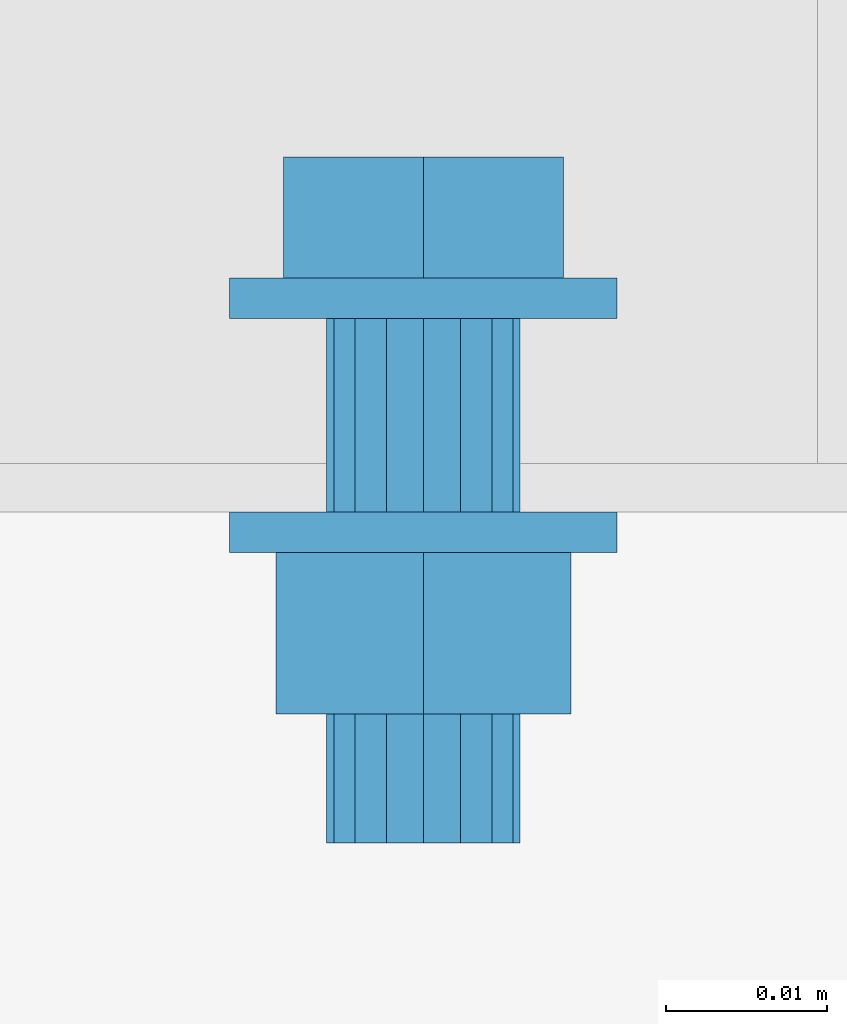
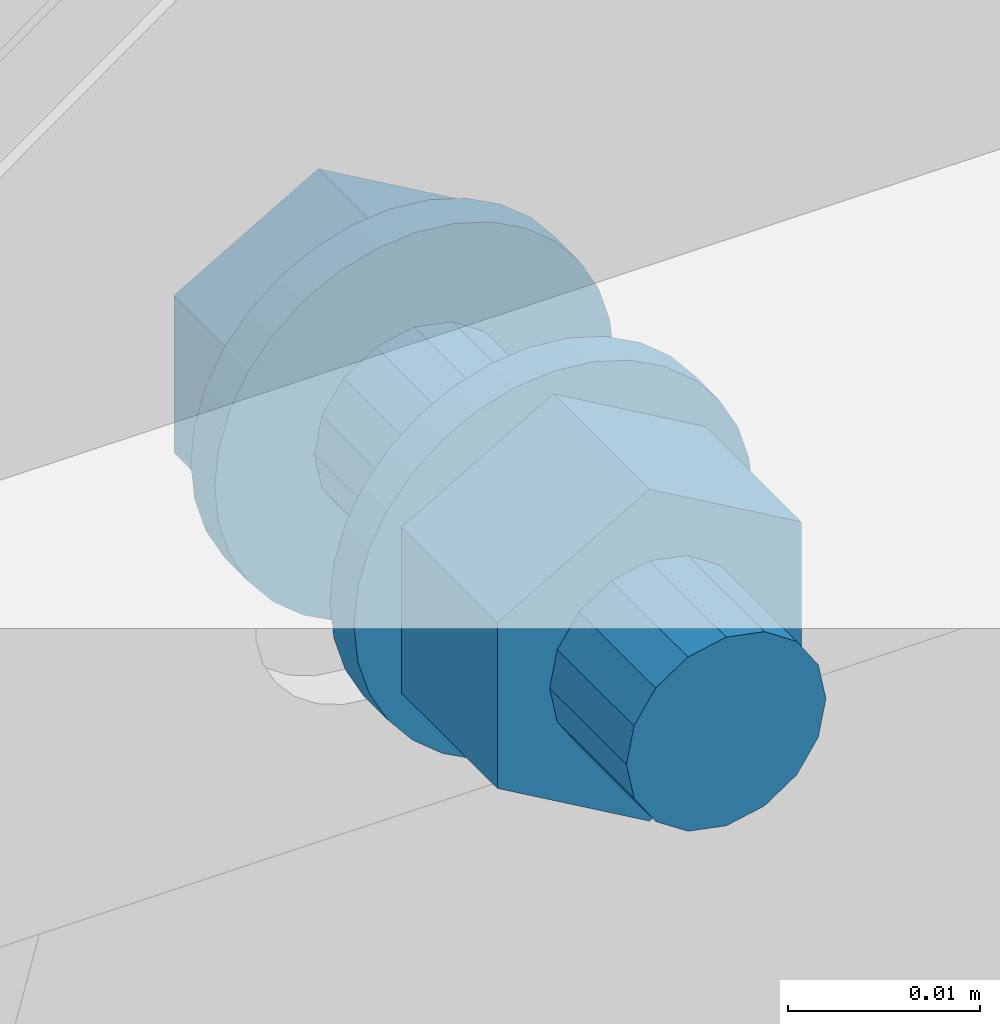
# One storey, part 260 of 410: 1 mechanical fastener.
"""IFC2X3 building model written with IfcOpenShell, lengths in millimetres."""

import ifcopenshell
import ifcopenshell.guid

model = None  # the IFC model being written
_history = None  # IfcOwnerHistory: only IFC2X3 demands one
_inside = {}  # id of a spatial element -> (the spatial element, [elements in it])
_under = {}  # id of a project, library or spatial element -> (it, [spatial elements below it])
_declared = {}  # id of a project -> (the project, [libraries it declares])
_typed = {}  # id of a type object -> (the type object, [elements of that type])
_made_of = {}  # id of a material, layer set ... -> (it, [elements and type objects made of it])


def new_model(schema):
    """Start an empty IFC model of exactly this schema.

    Asked for "IFC4X3", IfcOpenShell would pick the latest addendum, in which some entities
    have other attributes; the version numbers below select the first issue.
    IFC2X3 requires an IfcOwnerHistory on every rooted entity: one is made here for all.
    """
    global model, _history
    if schema == "IFC4X3":
        model = ifcopenshell.file(schema_version=(4, 3, 0, 0))
    else:
        model = ifcopenshell.file(schema=schema)
    _inside.clear()
    _under.clear()
    _declared.clear()
    _typed.clear()
    _made_of.clear()
    _history = None
    if model.schema == "IFC2X3":
        org = make("IfcOrganization", Name="unknown")
        user = make(
            "IfcPersonAndOrganization",
            ThePerson=make("IfcPerson", FamilyName="unknown"),
            TheOrganization=org,
        )
        app = make(
            "IfcApplication",
            ApplicationDeveloper=org,
            Version="unknown",
            ApplicationFullName="unknown",
            ApplicationIdentifier="unknown",
        )
        _history = make(
            "IfcOwnerHistory",
            OwningUser=user,
            OwningApplication=app,
            ChangeAction="ADDED",
            CreationDate=0,
        )
    return model


def make(cls, **values):
    """One entity of the class cls with the attributes given. An attribute that is None is left unset."""
    return model.create_entity(
        cls, **{name: value for name, value in values.items() if value is not None}
    )


def entity(cls, *values):
    """Any entity or typed value of the class cls, its attributes in the order of the schema. None: left unset."""
    e = model.create_entity(cls)
    for i, value in enumerate(values):
        if value is not None:
            e[i] = value
    return e


def rooted(cls, **values):
    """An entity with a GlobalId (a new one), such as an element, a storey or a relation."""
    return make(cls, GlobalId=ifcopenshell.guid.new(), OwnerHistory=_history, **values)


def si_unit(unit_type, name, prefix=None):
    """IfcSIUnit, for example si_unit("LENGTHUNIT", "METRE", prefix="MILLI")."""
    return make("IfcSIUnit", UnitType=unit_type, Prefix=prefix, Name=name)


def converted_unit(unit_type, name, factor, base, dimensions=None, offset=None):
    """IfcConversionBasedUnit, such as the inch: factor (a typed value) times the base unit."""
    return make(
        "IfcConversionBasedUnit"
        if offset is None
        else "IfcConversionBasedUnitWithOffset",
        ConversionOffset=offset,
        Dimensions=None
        if dimensions is None
        else entity("IfcDimensionalExponents", *dimensions),
        UnitType=unit_type,
        Name=name,
        ConversionFactor=make(
            "IfcMeasureWithUnit", ValueComponent=factor, UnitComponent=base
        ),
    )


def assignment(units):
    """IfcUnitAssignment: the units of a project."""
    return None if units is None else make("IfcUnitAssignment", Units=units)


def point(xyz):
    """IfcCartesianPoint."""
    return None if xyz is None else make("IfcCartesianPoint", Coordinates=xyz)


def direction(xyz):
    """IfcDirection."""
    return None if xyz is None else make("IfcDirection", DirectionRatios=xyz)


def frame(location, z_axis=None, x_axis=None):
    """IfcAxis2Placement3D, a coordinate frame: its origin and axes. An axis left out is left unset."""
    return make(
        "IfcAxis2Placement3D",
        Location=point(location),
        Axis=direction(z_axis),
        RefDirection=direction(x_axis),
    )


def origin_with_axes():
    """The frame at (0, 0, 0) with the z axis (0, 0, 1) and the x axis (1, 0, 0) written out."""
    return frame((0.0, 0.0, 0.0), z_axis=(0.0, 0.0, 1.0), x_axis=(1.0, 0.0, 0.0))


def place(relative_to, where):
    """IfcLocalPlacement: puts the frame where relative to a parent placement (None: the world)."""
    return make(
        "IfcLocalPlacement", PlacementRelTo=relative_to, RelativePlacement=where
    )


def context(
    kind, dimensions, precision=None, world=None, true_north=None, identifier=None
):
    """IfcGeometricRepresentationContext, for example the 3D "Model" context."""
    return make(
        "IfcGeometricRepresentationContext",
        ContextIdentifier=identifier,
        ContextType=kind,
        CoordinateSpaceDimension=dimensions,
        Precision=precision,
        WorldCoordinateSystem=world,
        TrueNorth=true_north,
    )


def project(units=None, contexts=None):
    """IfcProject with its units and contexts."""
    return rooted(
        "IfcProject",
        Name="project",
        RepresentationContexts=contexts,
        UnitsInContext=assignment(units),
    )


def spatial(cls, under=None, at=None, **own):
    """A site, building, storey or space (cls), placed at a placement, below another one or the project."""
    s = rooted(cls, ObjectPlacement=at, **own)
    if under is not None:
        _under.setdefault(under.id(), (under, []))[1].append(s)
    return s


def faces_of(points, faces, orient=None, outer=None):
    """IfcFace entities. A face is a list of loops; a loop is a list of indices into points, from 0.

    orient and outer hold one flag for each loop. By default every Orientation is true, the
    first loop of a face is its IfcFaceOuterBound and the others are IfcFaceBound.
    """
    made = []
    for i, loops in enumerate(faces):
        bounds = []
        for j, loop in enumerate(loops):
            is_outer = j == 0 if outer is None else outer[i][j]
            bounds.append(
                make(
                    "IfcFaceOuterBound" if is_outer else "IfcFaceBound",
                    Bound=make("IfcPolyLoop", Polygon=[points[k] for k in loop]),
                    Orientation=True if orient is None else orient[i][j],
                )
            )
        made.append(make("IfcFace", Bounds=bounds))
    return made


def faceted_brep(points, faces, orient=None, outer=None, voids=None):
    """IfcFacetedBrep: a solid bounded by flat faces; with voids (closed shells), ...WithVoids."""
    shared = [point(p) for p in points]
    hull = make("IfcClosedShell", CfsFaces=faces_of(shared, faces, orient, outer))
    if voids is None:
        return make("IfcFacetedBrep", Outer=hull)
    return make(
        "IfcFacetedBrepWithVoids",
        Outer=hull,
        Voids=[
            make(cls, CfsFaces=faces_of(shared, fs, o, b)) for cls, fs, o, b in voids
        ],
    )


def shape(context_of_items, identifier, shape_type, items):
    """IfcShapeRepresentation: the items that make up one representation, for example the "Body"."""
    return make(
        "IfcShapeRepresentation",
        ContextOfItems=context_of_items,
        RepresentationIdentifier=identifier,
        RepresentationType=shape_type,
        Items=items,
    )


def made_of(thing, what):
    """Note that an element or type object is made of a material, layer set ...; save() writes the relation."""
    if what is not None:
        _made_of.setdefault(what.id(), (what, []))[1].append(thing)
    return thing


def element(
    cls,
    number,
    at=None,
    inside=None,
    cuts=None,
    type_object=None,
    material=None,
    context=None,
    identifier="Body",
    shape_type=None,
    held_by="IfcProductDefinitionShape",
    body=None,
    shapes=None,
    **own,
):
    """One element of the class cls, such as IfcWall. Its Tag is "e" and its number.

    at: its placement. inside: the storey or other place that contains it. cuts: it is an
    opening in that element (IfcRelVoidsElement). A single representation is given by context,
    identifier, shape_type and body (its items); several are given by shapes. held_by: the class
    of the entity that holds the representations. save() writes the other relations.
    """
    e = rooted(cls, Tag="e%d" % number, ObjectPlacement=at, **own)
    if body is not None:
        shapes = [shape(context, identifier, shape_type, body)]
    if shapes is not None:
        e.Representation = make(held_by, Representations=shapes)
    if inside is not None:
        _inside.setdefault(inside.id(), (inside, []))[1].append(e)
    if cuts is not None:
        rooted(
            "IfcRelVoidsElement", RelatingBuildingElement=cuts, RelatedOpeningElement=e
        )
    if type_object is not None:
        _typed.setdefault(type_object.id(), (type_object, []))[1].append(e)
    return made_of(e, material)


def aggregate(whole, parts):
    """IfcRelAggregates: a whole, such as a stair, and the parts it consists of."""
    return rooted("IfcRelAggregates", RelatingObject=whole, RelatedObjects=parts)


def save(model, path):
    """Write the relations noted so far, then the file.

    IfcRelAggregates (storeys below a building ...), IfcRelContainedInSpatialStructure (elements
    in a storey), IfcRelDefinesByType, IfcRelAssociatesMaterial and IfcRelDeclares: one each for
    every whole, place, type object, material and project.
    """
    for whole, parts in _under.values():
        aggregate(whole, parts)
    for where, things in _inside.values():
        rooted(
            "IfcRelContainedInSpatialStructure",
            RelatedElements=things,
            RelatingStructure=where,
        )
    for kind, things in _typed.values():
        rooted("IfcRelDefinesByType", RelatedObjects=things, RelatingType=kind)
    for what, things in _made_of.values():
        rooted("IfcRelAssociatesMaterial", RelatedObjects=things, RelatingMaterial=what)
    for by, libraries in _declared.values():
        rooted("IfcRelDeclares", RelatingContext=by, RelatedDefinitions=libraries)
    model.write(path)


model = new_model("IFC2X3")

# Units and contexts
model_context = context("Model", 3, precision=1e-09, world=origin_with_axes())
ifc_project = project(units=[si_unit("LENGTHUNIT", "METRE", prefix="MILLI"), si_unit("AREAUNIT", "SQUARE_METRE"), si_unit("VOLUMEUNIT", "CUBIC_METRE"), converted_unit("PLANEANGLEUNIT", "DEGREE", entity("IfcPlaneAngleMeasure", 0.01745329), si_unit("PLANEANGLEUNIT", "RADIAN"), dimensions=[0, 0, 0, 0, 0, 0, 0])], contexts=[model_context])

# Site, building, storey
site_placement = place(None, origin_with_axes())
site = spatial("IfcSite", under=ifc_project, at=site_placement, Name="mKR Teilneubau & Sanierung BA1 - Ostfildern", CompositionType="ELEMENT")
building_placement = place(site_placement, origin_with_axes())
building = spatial("IfcBuilding", under=site, at=building_placement, Name="Struktur 1", CompositionType="ELEMENT")
storey_placement = place(building_placement, origin_with_axes())
storey = spatial("IfcBuildingStorey", under=building, at=storey_placement, Name="Default Storey", CompositionType="ELEMENT", Elevation=0.0)

# Mechanical fastener
mechanical_fastener_placement = place(None, origin_with_axes())
element("IfcMechanicalFastener", 1, at=mechanical_fastener_placement, inside=storey, ObjectType="Bolt", NominalDiameter=12.0, NominalLength=35.0, context=model_context, shape_type="Brep", body=[
    faceted_brep([(-1038.0, 18451.499999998, 7270.0), (-1038.0, 18448.999999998, 7270.0), (-1038.230576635, 18448.999999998, 7267.658916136), (-1038.230576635, 18451.499999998, 7267.658916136), (-1038.91344561, 18448.999999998, 7265.407798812), (-1038.91344561, 18451.499999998, 7265.407798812), (-1040.022364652, 18448.999999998, 7263.333157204), (-1040.022364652, 18451.499999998, 7263.333157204), (-1041.514718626, 18448.999999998, 7261.514718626), (-1041.514718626, 18451.499999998, 7261.514718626), (-1043.333157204, 18448.999999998, 7260.022364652), (-1043.333157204, 18451.499999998, 7260.022364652), (-1045.407798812, 18448.999999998, 7258.91344561), (-1045.407798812, 18451.499999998, 7258.91344561), (-1047.658916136, 18448.999999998, 7258.230576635), (-1047.658916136, 18451.499999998, 7258.230576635), (-1050.0, 18448.999999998, 7258.0), (-1050.0, 18451.499999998, 7258.0), (-1052.341083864, 18448.999999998, 7258.230576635), (-1052.341083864, 18451.499999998, 7258.230576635), (-1054.592201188, 18448.999999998, 7258.91344561), (-1054.592201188, 18451.499999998, 7258.91344561), (-1056.666842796, 18448.999999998, 7260.022364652), (-1056.666842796, 18451.499999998, 7260.022364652), (-1058.485281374, 18448.999999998, 7261.514718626), (-1058.485281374, 18451.499999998, 7261.514718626), (-1059.977635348, 18448.999999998, 7263.333157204), (-1059.977635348, 18451.499999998, 7263.333157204), (-1061.08655439, 18448.999999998, 7265.407798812), (-1061.08655439, 18451.499999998, 7265.407798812), (-1061.769423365, 18448.999999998, 7267.658916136), (-1061.769423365, 18451.499999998, 7267.658916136), (-1062.0, 18448.999999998, 7270.0), (-1062.0, 18451.499999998, 7270.0), (-1061.769423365, 18448.999999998, 7272.341083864), (-1061.769423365, 18451.499999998, 7272.341083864), (-1061.08655439, 18448.999999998, 7274.592201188), (-1061.08655439, 18451.499999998, 7274.592201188), (-1059.977635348, 18448.999999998, 7276.666842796), (-1059.977635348, 18451.499999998, 7276.666842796), (-1058.485281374, 18448.999999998, 7278.485281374), (-1058.485281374, 18451.499999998, 7278.485281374), (-1056.666842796, 18448.999999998, 7279.977635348), (-1056.666842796, 18451.499999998, 7279.977635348), (-1054.592201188, 18448.999999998, 7281.08655439), (-1054.592201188, 18451.499999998, 7281.08655439), (-1052.341083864, 18448.999999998, 7281.769423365), (-1052.341083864, 18451.499999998, 7281.769423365), (-1050.0, 18448.999999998, 7282.0), (-1050.0, 18451.499999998, 7282.0), (-1047.658916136, 18448.999999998, 7281.769423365), (-1047.658916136, 18451.499999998, 7281.769423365), (-1045.407798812, 18448.999999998, 7281.08655439), (-1045.407798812, 18451.499999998, 7281.08655439), (-1043.333157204, 18448.999999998, 7279.977635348), (-1043.333157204, 18451.499999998, 7279.977635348), (-1041.514718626, 18448.999999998, 7278.485281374), (-1041.514718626, 18451.499999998, 7278.485281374), (-1040.022364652, 18448.999999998, 7276.666842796), (-1040.022364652, 18451.499999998, 7276.666842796), (-1038.91344561, 18448.999999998, 7274.592201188), (-1038.91344561, 18451.499999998, 7274.592201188), (-1038.230576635, 18448.999999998, 7272.341083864), (-1038.230576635, 18451.499999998, 7272.341083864)], [[[0, 1, 2, 3]], [[3, 2, 4, 5]], [[5, 4, 6, 7]], [[7, 6, 8, 9]], [[9, 8, 10, 11]], [[11, 10, 12, 13]], [[13, 12, 14, 15]], [[15, 14, 16, 17]], [[17, 16, 18, 19]], [[19, 18, 20, 21]], [[21, 20, 22, 23]], [[23, 22, 24, 25]], [[25, 24, 26, 27]], [[27, 26, 28, 29]], [[29, 28, 30, 31]], [[31, 30, 32, 33]], [[33, 32, 34, 35]], [[35, 34, 36, 37]], [[37, 36, 38, 39]], [[39, 38, 40, 41]], [[41, 40, 42, 43]], [[43, 42, 44, 45]], [[45, 44, 46, 47]], [[47, 46, 48, 49]], [[49, 48, 50, 51]], [[51, 50, 52, 53]], [[53, 52, 54, 55]], [[55, 54, 56, 57]], [[57, 56, 58, 59]], [[59, 58, 60, 61]], [[61, 60, 62, 63]], [[63, 62, 1, 0]], [[0, 3, 5, 7, 9, 11, 13, 15, 17, 19, 21, 23, 25, 27, 29, 31, 33, 35, 37, 39, 41, 43, 45, 47, 49, 51, 53, 55, 57, 59, 61, 63]], [[1, 62, 60, 58, 56, 54, 52, 50, 48, 46, 44, 42, 40, 38, 36, 34, 32, 30, 28, 26, 24, 22, 20, 18, 16, 14, 12, 10, 8, 6, 4, 2]]]),
    faceted_brep([(-1058.673244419, 18451.499999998, 7264.9925), (-1058.673244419, 18458.999999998, 7264.9925), (-1050.0, 18458.999999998, 7259.985), (-1050.0, 18451.499999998, 7259.985), (-1041.326755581, 18458.999999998, 7264.9925), (-1041.326755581, 18451.499999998, 7264.9925), (-1041.326755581, 18458.999999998, 7275.0075), (-1041.326755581, 18451.499999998, 7275.0075), (-1050.0, 18458.999999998, 7280.015), (-1050.0, 18451.499999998, 7280.015), (-1058.673244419, 18458.999999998, 7275.0075), (-1058.673244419, 18451.499999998, 7275.0075)], [[[0, 1, 2, 3]], [[3, 2, 4, 5]], [[5, 4, 6, 7]], [[7, 6, 8, 9]], [[9, 8, 10, 11]], [[11, 10, 1, 0]], [[4, 2, 1, 10, 8, 6]], [[0, 3, 5, 7, 9, 11]]]),
    faceted_brep([(-1044.0, 18448.999999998, 7270.0), (-1044.0, 18436.999999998, 7270.0), (-1044.456722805, 18436.999999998, 7267.703899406), (-1044.456722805, 18448.999999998, 7267.703899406), (-1045.757359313, 18436.999999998, 7265.757359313), (-1045.757359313, 18448.999999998, 7265.757359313), (-1047.703899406, 18436.999999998, 7264.456722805), (-1047.703899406, 18448.999999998, 7264.456722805), (-1050.0, 18436.999999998, 7264.0), (-1050.0, 18448.999999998, 7264.0), (-1052.296100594, 18436.999999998, 7264.456722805), (-1052.296100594, 18448.999999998, 7264.456722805), (-1054.242640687, 18436.999999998, 7265.757359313), (-1054.242640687, 18448.999999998, 7265.757359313), (-1055.543277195, 18436.999999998, 7267.703899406), (-1055.543277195, 18448.999999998, 7267.703899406), (-1056.0, 18436.999999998, 7270.0), (-1056.0, 18448.999999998, 7270.0), (-1055.543277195, 18436.999999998, 7272.296100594), (-1055.543277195, 18448.999999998, 7272.296100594), (-1054.242640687, 18436.999999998, 7274.242640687), (-1054.242640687, 18448.999999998, 7274.242640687), (-1052.296100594, 18436.999999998, 7275.543277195), (-1052.296100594, 18448.999999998, 7275.543277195), (-1050.0, 18436.999999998, 7276.0), (-1050.0, 18448.999999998, 7276.0), (-1047.703899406, 18436.999999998, 7275.543277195), (-1047.703899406, 18448.999999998, 7275.543277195), (-1045.757359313, 18436.999999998, 7274.242640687), (-1045.757359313, 18448.999999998, 7274.242640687), (-1044.456722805, 18436.999999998, 7272.296100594), (-1044.456722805, 18448.999999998, 7272.296100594)], [[[0, 1, 2, 3]], [[3, 2, 4, 5]], [[5, 4, 6, 7]], [[7, 6, 8, 9]], [[9, 8, 10, 11]], [[11, 10, 12, 13]], [[13, 12, 14, 15]], [[15, 14, 16, 17]], [[17, 16, 18, 19]], [[19, 18, 20, 21]], [[21, 20, 22, 23]], [[23, 22, 24, 25]], [[25, 24, 26, 27]], [[27, 26, 28, 29]], [[29, 28, 30, 31]], [[31, 30, 1, 0]], [[0, 3, 5, 7, 9, 11, 13, 15, 17, 19, 21, 23, 25, 27, 29, 31]], [[1, 30, 28, 26, 24, 22, 20, 18, 16, 14, 12, 10, 8, 6, 4, 2]]]),
    faceted_brep([(-1038.0, 18436.999999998, 7270.0), (-1038.0, 18434.499999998, 7270.0), (-1038.230576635, 18434.499999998, 7267.658916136), (-1038.230576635, 18436.999999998, 7267.658916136), (-1038.91344561, 18434.499999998, 7265.407798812), (-1038.91344561, 18436.999999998, 7265.407798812), (-1040.022364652, 18434.499999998, 7263.333157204), (-1040.022364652, 18436.999999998, 7263.333157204), (-1041.514718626, 18434.499999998, 7261.514718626), (-1041.514718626, 18436.999999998, 7261.514718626), (-1043.333157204, 18434.499999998, 7260.022364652), (-1043.333157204, 18436.999999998, 7260.022364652), (-1045.407798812, 18434.499999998, 7258.91344561), (-1045.407798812, 18436.999999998, 7258.91344561), (-1047.658916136, 18434.499999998, 7258.230576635), (-1047.658916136, 18436.999999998, 7258.230576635), (-1050.0, 18434.499999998, 7258.0), (-1050.0, 18436.999999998, 7258.0), (-1052.341083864, 18434.499999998, 7258.230576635), (-1052.341083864, 18436.999999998, 7258.230576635), (-1054.592201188, 18434.499999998, 7258.91344561), (-1054.592201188, 18436.999999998, 7258.91344561), (-1056.666842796, 18434.499999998, 7260.022364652), (-1056.666842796, 18436.999999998, 7260.022364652), (-1058.485281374, 18434.499999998, 7261.514718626), (-1058.485281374, 18436.999999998, 7261.514718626), (-1059.977635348, 18434.499999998, 7263.333157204), (-1059.977635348, 18436.999999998, 7263.333157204), (-1061.08655439, 18434.499999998, 7265.407798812), (-1061.08655439, 18436.999999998, 7265.407798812), (-1061.769423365, 18434.499999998, 7267.658916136), (-1061.769423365, 18436.999999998, 7267.658916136), (-1062.0, 18434.499999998, 7270.0), (-1062.0, 18436.999999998, 7270.0), (-1061.769423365, 18434.499999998, 7272.341083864), (-1061.769423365, 18436.999999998, 7272.341083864), (-1061.08655439, 18434.499999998, 7274.592201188), (-1061.08655439, 18436.999999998, 7274.592201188), (-1059.977635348, 18434.499999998, 7276.666842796), (-1059.977635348, 18436.999999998, 7276.666842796), (-1058.485281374, 18434.499999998, 7278.485281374), (-1058.485281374, 18436.999999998, 7278.485281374), (-1056.666842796, 18434.499999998, 7279.977635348), (-1056.666842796, 18436.999999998, 7279.977635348), (-1054.592201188, 18434.499999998, 7281.08655439), (-1054.592201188, 18436.999999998, 7281.08655439), (-1052.341083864, 18434.499999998, 7281.769423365), (-1052.341083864, 18436.999999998, 7281.769423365), (-1050.0, 18434.499999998, 7282.0), (-1050.0, 18436.999999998, 7282.0), (-1047.658916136, 18434.499999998, 7281.769423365), (-1047.658916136, 18436.999999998, 7281.769423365), (-1045.407798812, 18434.499999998, 7281.08655439), (-1045.407798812, 18436.999999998, 7281.08655439), (-1043.333157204, 18434.499999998, 7279.977635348), (-1043.333157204, 18436.999999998, 7279.977635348), (-1041.514718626, 18434.499999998, 7278.485281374), (-1041.514718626, 18436.999999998, 7278.485281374), (-1040.022364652, 18434.499999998, 7276.666842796), (-1040.022364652, 18436.999999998, 7276.666842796), (-1038.91344561, 18434.499999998, 7274.592201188), (-1038.91344561, 18436.999999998, 7274.592201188), (-1038.230576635, 18434.499999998, 7272.341083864), (-1038.230576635, 18436.999999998, 7272.341083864)], [[[0, 1, 2, 3]], [[3, 2, 4, 5]], [[5, 4, 6, 7]], [[7, 6, 8, 9]], [[9, 8, 10, 11]], [[11, 10, 12, 13]], [[13, 12, 14, 15]], [[15, 14, 16, 17]], [[17, 16, 18, 19]], [[19, 18, 20, 21]], [[21, 20, 22, 23]], [[23, 22, 24, 25]], [[25, 24, 26, 27]], [[27, 26, 28, 29]], [[29, 28, 30, 31]], [[31, 30, 32, 33]], [[33, 32, 34, 35]], [[35, 34, 36, 37]], [[37, 36, 38, 39]], [[39, 38, 40, 41]], [[41, 40, 42, 43]], [[43, 42, 44, 45]], [[45, 44, 46, 47]], [[47, 46, 48, 49]], [[49, 48, 50, 51]], [[51, 50, 52, 53]], [[53, 52, 54, 55]], [[55, 54, 56, 57]], [[57, 56, 58, 59]], [[59, 58, 60, 61]], [[61, 60, 62, 63]], [[63, 62, 1, 0]], [[0, 3, 5, 7, 9, 11, 13, 15, 17, 19, 21, 23, 25, 27, 29, 31, 33, 35, 37, 39, 41, 43, 45, 47, 49, 51, 53, 55, 57, 59, 61, 63]], [[1, 62, 60, 58, 56, 54, 52, 50, 48, 46, 44, 42, 40, 38, 36, 34, 32, 30, 28, 26, 24, 22, 20, 18, 16, 14, 12, 10, 8, 6, 4, 2]]]),
    faceted_brep([(-1059.13656801, 18424.499999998, 7264.725), (-1059.13656801, 18434.499999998, 7264.725), (-1050.0, 18434.499999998, 7259.45), (-1050.0, 18424.499999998, 7259.45), (-1040.86343199, 18434.499999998, 7264.725), (-1040.86343199, 18424.499999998, 7264.725), (-1040.86343199, 18434.499999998, 7275.275), (-1040.86343199, 18424.499999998, 7275.275), (-1050.0, 18434.499999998, 7280.55), (-1050.0, 18424.499999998, 7280.55), (-1059.13656801, 18434.499999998, 7275.275), (-1059.13656801, 18424.499999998, 7275.275)], [[[0, 1, 2, 3]], [[3, 2, 4, 5]], [[5, 4, 6, 7]], [[7, 6, 8, 9]], [[9, 8, 10, 11]], [[11, 10, 1, 0]], [[4, 2, 1, 10, 8, 6]], [[0, 3, 5, 7, 9, 11]]]),
    faceted_brep([(-1044.0, 18424.499999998, 7270.0), (-1044.0, 18416.499999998, 7270.0), (-1044.456722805, 18416.499999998, 7267.703899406), (-1044.456722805, 18424.499999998, 7267.703899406), (-1045.757359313, 18416.499999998, 7265.757359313), (-1045.757359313, 18424.499999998, 7265.757359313), (-1047.703899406, 18416.499999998, 7264.456722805), (-1047.703899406, 18424.499999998, 7264.456722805), (-1050.0, 18416.499999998, 7264.0), (-1050.0, 18424.499999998, 7264.0), (-1052.296100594, 18416.499999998, 7264.456722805), (-1052.296100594, 18424.499999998, 7264.456722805), (-1054.242640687, 18416.499999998, 7265.757359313), (-1054.242640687, 18424.499999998, 7265.757359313), (-1055.543277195, 18416.499999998, 7267.703899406), (-1055.543277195, 18424.499999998, 7267.703899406), (-1056.0, 18416.499999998, 7270.0), (-1056.0, 18424.499999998, 7270.0), (-1055.543277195, 18416.499999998, 7272.296100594), (-1055.543277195, 18424.499999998, 7272.296100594), (-1054.242640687, 18416.499999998, 7274.242640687), (-1054.242640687, 18424.499999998, 7274.242640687), (-1052.296100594, 18416.499999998, 7275.543277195), (-1052.296100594, 18424.499999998, 7275.543277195), (-1050.0, 18416.499999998, 7276.0), (-1050.0, 18424.499999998, 7276.0), (-1047.703899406, 18416.499999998, 7275.543277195), (-1047.703899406, 18424.499999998, 7275.543277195), (-1045.757359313, 18416.499999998, 7274.242640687), (-1045.757359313, 18424.499999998, 7274.242640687), (-1044.456722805, 18416.499999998, 7272.296100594), (-1044.456722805, 18424.499999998, 7272.296100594)], [[[0, 1, 2, 3]], [[3, 2, 4, 5]], [[5, 4, 6, 7]], [[7, 6, 8, 9]], [[9, 8, 10, 11]], [[11, 10, 12, 13]], [[13, 12, 14, 15]], [[15, 14, 16, 17]], [[17, 16, 18, 19]], [[19, 18, 20, 21]], [[21, 20, 22, 23]], [[23, 22, 24, 25]], [[25, 24, 26, 27]], [[27, 26, 28, 29]], [[29, 28, 30, 31]], [[31, 30, 1, 0]], [[0, 3, 5, 7, 9, 11, 13, 15, 17, 19, 21, 23, 25, 27, 29, 31]], [[1, 30, 28, 26, 24, 22, 20, 18, 16, 14, 12, 10, 8, 6, 4, 2]]]),
])

save(model, "model.ifc")
